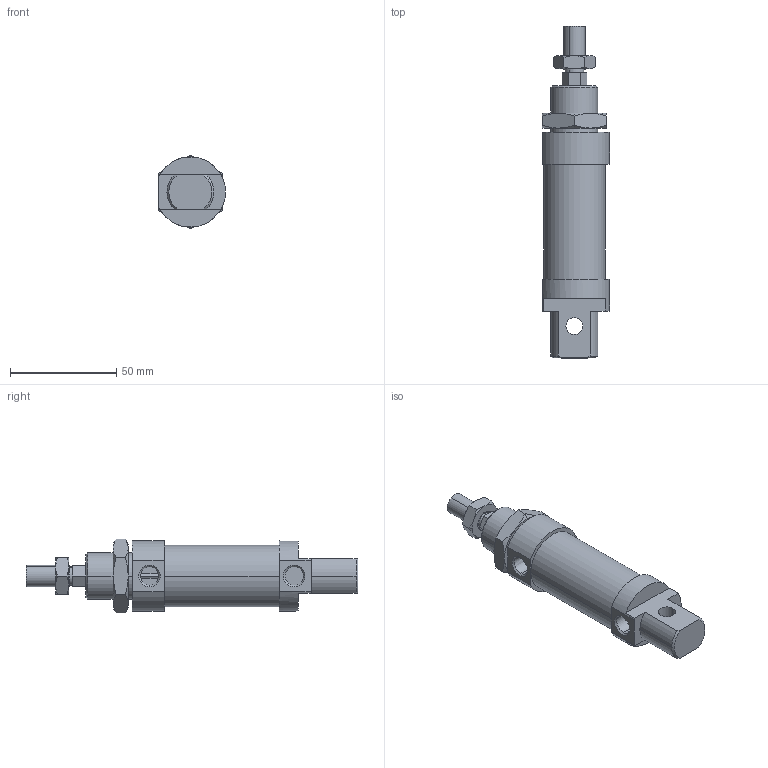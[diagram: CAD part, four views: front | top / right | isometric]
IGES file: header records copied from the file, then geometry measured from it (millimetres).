
Global section: file name: No Iges File Name specified; native system: AutoDesk Inventor R6.0; preprocessor: AutoDesk Inventor Iges Exporter R6.0; author: No Author specified; organization: No Organization specified; date: 20030405.074120; units: millimetre
Bounding box: 31.5 x 156 x 34.64 mm (x, y, z)
Volume: 78457.7 mm3; surface area: 21155.6 mm2
Topology: 4 solids, 4 shells, 125 faces, 285 edges, 174 vertices
Faces by surface type: plane 46, cone 38, bspline 21, cylinder 16, revolution 4
